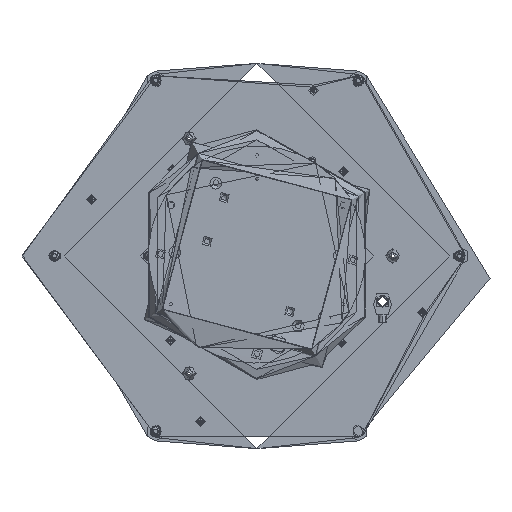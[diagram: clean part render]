
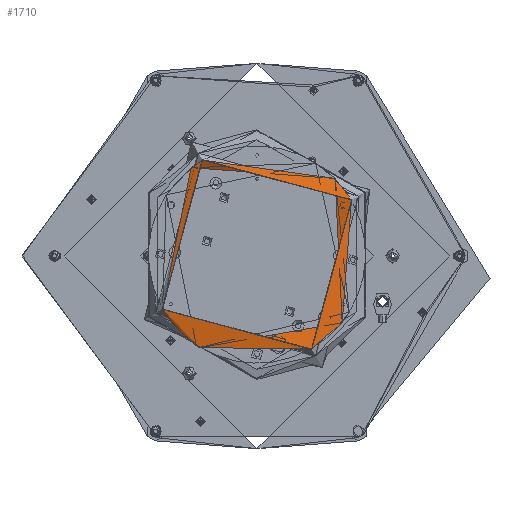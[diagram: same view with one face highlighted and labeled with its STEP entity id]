
A CAD part, top view. The second image highlights one B-rep face of the part: STEP entity #1710.
In plain terms, the highlighted cylindrical face has radius 74.724 mm (diameter 149.448 mm), a full revolution.
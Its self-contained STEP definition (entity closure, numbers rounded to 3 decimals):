
#1710 = ADVANCED_FACE( '', ( #3442, #3443 ), #3444, .F. );
#3442 = FACE_OUTER_BOUND( '', #43509, .T. );
#3443 = FACE_OUTER_BOUND( '', #43510, .T. );
#3444 = CYLINDRICAL_SURFACE( '', #43511, 74.724 );
#43509 = EDGE_LOOP( '', ( #93499, #93500 ) );
#43510 = EDGE_LOOP( '', ( #93501 ) );
#43511 = AXIS2_PLACEMENT_3D( '', #93502, #93503, #93504 );
#93499 = ORIENTED_EDGE( '', *, *, #97379, .T. );
#93500 = ORIENTED_EDGE( '', *, *, #97380, .T. );
#93501 = ORIENTED_EDGE( '', *, *, #97381, .T. );
#93502 = CARTESIAN_POINT( '', ( 0., 0., -59.85 ) );
#93503 = DIRECTION( '', ( 0., 0., 1. ) );
#93504 = DIRECTION( '', ( -1., 0., 0. ) );
#97379 = EDGE_CURVE( '', #98087, #99031, #100118, .T. );
#97380 = EDGE_CURVE( '', #99031, #98087, #100119, .T. );
#97381 = EDGE_CURVE( '', #100120, #100120, #100121, .F. );
#98087 = VERTEX_POINT( '', #101000 );
#99031 = VERTEX_POINT( '', #104310 );
#100118 = CIRCLE( '', #110514, 74.724 );
#100119 = B_SPLINE_CURVE_WITH_KNOTS( '', 3, ( #110515, #110516, #110517, #110518, #110519, #110520, #110521, #110522, #110523, #110524, #110525, #110526, #110527 ), .UNSPECIFIED., .F., .F., ( 4, 1, 1, 1, 1, 1, 1, 1, 1, 1, 4 ), ( 0., 0.045, 0.101, 0.17, 0.251, 0.392, 0.501, 0.61, 0.751, 0.899, 1. ), .UNSPECIFIED. );
#100120 = VERTEX_POINT( '', #110528 );
#100121 = CIRCLE( '', #110529, 74.724 );
#101000 = CARTESIAN_POINT( '', ( -67.214, -32.649, 28.875 ) );
#104310 = CARTESIAN_POINT( '', ( -65.653, -35.683, 28.875 ) );
#110514 = AXIS2_PLACEMENT_3D( '', #116366, #116367, #116368 );
#110515 = CARTESIAN_POINT( '', ( -65.653, -35.683, 28.875 ) );
#110516 = CARTESIAN_POINT( '', ( -65.678, -35.638, 28.874 ) );
#110517 = CARTESIAN_POINT( '', ( -65.733, -35.537, 28.872 ) );
#110518 = CARTESIAN_POINT( '', ( -65.825, -35.366, 28.861 ) );
#110519 = CARTESIAN_POINT( '', ( -65.935, -35.159, 28.843 ) );
#110520 = CARTESIAN_POINT( '', ( -66.09, -34.868, 28.812 ) );
#110521 = CARTESIAN_POINT( '', ( -66.265, -34.535, 28.78 ) );
#110522 = CARTESIAN_POINT( '', ( -66.453, -34.172, 28.764 ) );
#110523 = CARTESIAN_POINT( '', ( -66.639, -33.808, 28.781 ) );
#110524 = CARTESIAN_POINT( '', ( -66.842, -33.405, 28.819 ) );
#110525 = CARTESIAN_POINT( '', ( -67.039, -33.008, 28.863 ) );
#110526 = CARTESIAN_POINT( '', ( -67.163, -32.752, 28.871 ) );
#110527 = CARTESIAN_POINT( '', ( -67.214, -32.649, 28.875 ) );
#110528 = CARTESIAN_POINT( '', ( -74.724, 0., 31.975 ) );
#110529 = AXIS2_PLACEMENT_3D( '', #116369, #116370, #116371 );
#116366 = CARTESIAN_POINT( '', ( 0., 0., 28.875 ) );
#116367 = DIRECTION( '', ( 0., 0., -1. ) );
#116368 = DIRECTION( '', ( -1., 0., 0. ) );
#116369 = CARTESIAN_POINT( '', ( 0., 0., 31.975 ) );
#116370 = DIRECTION( '', ( 0., 0., -1. ) );
#116371 = DIRECTION( '', ( -1., 0., 0. ) );
